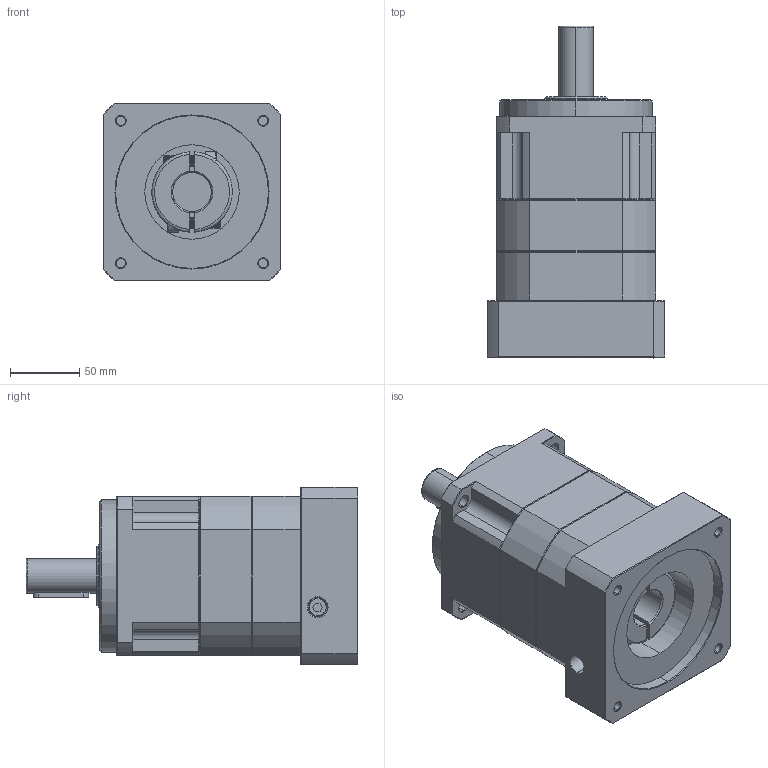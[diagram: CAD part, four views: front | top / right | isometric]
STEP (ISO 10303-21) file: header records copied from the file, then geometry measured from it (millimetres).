
FILE_DESCRIPTION (( 'STEP AP214' ), '1' );
FILE_NAME ('ZPB115-D25-L2-P1-28-110-145-M8.step', '2024-06-11T19:28:44', ( 'Windows 蚚誧' ), ( 'Organization' ), 'SwSTEP 2.0', 'SolidWorks 2016', '' );
FILE_SCHEMA (( 'AUTOMOTIVE_DESIGN' ));
Length unit declared in the file: millimetre
Products named in the file (1): ZPB115-D25-L2-P1-28-110-145-M8
Bounding box: 128 x 239 x 128 mm (x, y, z)
Surface area: 158950.6 mm2 (no closed solid volume)
Topology: 0 solids, 29 shells, 1806 faces, 4891 edges, 3145 vertices
Faces by surface type: plane 928, bspline 381, cone 274, cylinder 223
Full cylindrical faces by diameter (mm): 10.2 x1
Entity records: 97962 total; most frequent: CARTESIAN_POINT 48886, ORIENTED_EDGE 9752, DIRECTION 7464, EDGE_CURVE 4885, LINE 3160, VECTOR 3160, VERTEX_POINT 3143, AXIS2_PLACEMENT_3D 2152
